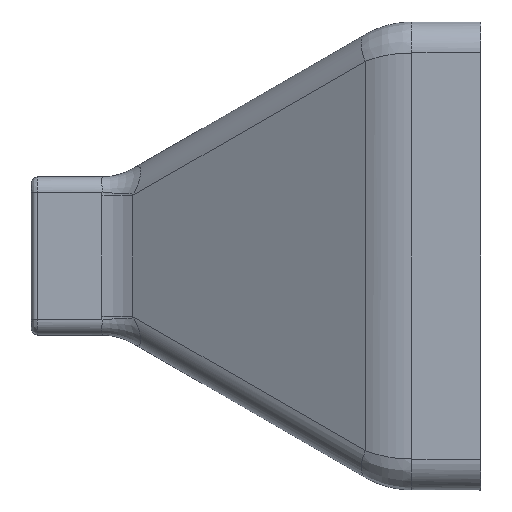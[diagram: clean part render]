
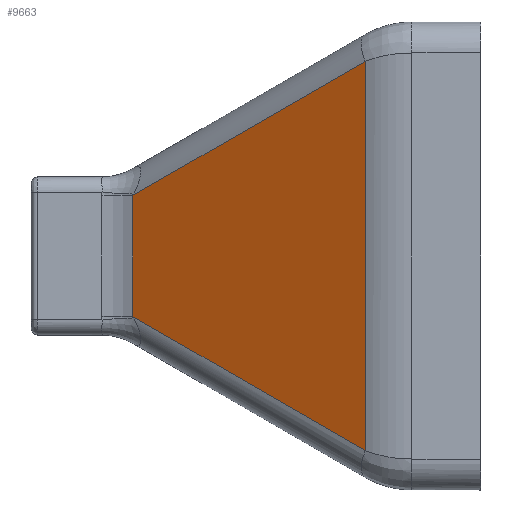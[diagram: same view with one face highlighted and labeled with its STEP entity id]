
A CAD part, left-side view. The second image highlights one B-rep face of the part: STEP entity #9663.
In plain terms, the highlighted planar face has unit normal (-0.866, 0.5, 0).
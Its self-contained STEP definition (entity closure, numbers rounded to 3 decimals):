
#50 = EDGE_CURVE ( 'NONE', #3484, #4686, #11450, .T. ) ;
#302 = CARTESIAN_POINT ( 'NONE',  ( -11.345, 112.229, -73.355 ) ) ;
#395 = VECTOR ( 'NONE', #1648, 1000. ) ;
#759 = DIRECTION ( 'NONE',  ( -0.866, 0.5, 0. ) ) ;
#959 = ORIENTED_EDGE ( 'NONE', *, *, #7785, .F. ) ;
#1394 = DIRECTION ( 'NONE',  ( 0., 0., -1. ) ) ;
#1540 = VECTOR ( 'NONE', #8851, 1000. ) ;
#1648 = DIRECTION ( 'NONE',  ( 0.447, 0.775, 0.447 ) ) ;
#1748 = PLANE ( 'NONE',  #1979 ) ;
#1979 = AXIS2_PLACEMENT_3D ( 'NONE', #6409, #759, #5472 ) ;
#2512 = EDGE_LOOP ( 'NONE', ( #12223, #2636, #959, #2721 ) ) ;
#2636 = ORIENTED_EDGE ( 'NONE', *, *, #9209, .F. ) ;
#2721 = ORIENTED_EDGE ( 'NONE', *, *, #50, .F. ) ;
#3172 = CARTESIAN_POINT ( 'NONE',  ( -54.646, 37.229, -73.836 ) ) ;
#3484 = VERTEX_POINT ( 'NONE', #11540 ) ;
#3488 = VERTEX_POINT ( 'NONE', #5976 ) ;
#3665 = DIRECTION ( 'NONE',  ( -0.447, -0.775, 0.447 ) ) ;
#4590 = CARTESIAN_POINT ( 'NONE',  ( -23.403, 91.343, -22.258 ) ) ;
#4686 = VERTEX_POINT ( 'NONE', #5758 ) ;
#4715 = VERTEX_POINT ( 'NONE', #302 ) ;
#5084 = LINE ( 'NONE', #3172, #1540 ) ;
#5472 = DIRECTION ( 'NONE',  ( 0., 0., 1. ) ) ;
#5758 = CARTESIAN_POINT ( 'NONE',  ( -54.646, 37.229, 8.985 ) ) ;
#5932 = CARTESIAN_POINT ( 'NONE',  ( -11.345, 112.229, -75.836 ) ) ;
#5976 = CARTESIAN_POINT ( 'NONE',  ( -54.646, 37.229, -116.656 ) ) ;
#6409 = CARTESIAN_POINT ( 'NONE',  ( -59.315, 29.143, -75.836 ) ) ;
#7785 = EDGE_CURVE ( 'NONE', #4686, #3488, #5084, .T. ) ;
#8851 = DIRECTION ( 'NONE',  ( 0., 0., -1. ) ) ;
#9209 = EDGE_CURVE ( 'NONE', #3488, #4715, #10236, .T. ) ;
#9475 = VECTOR ( 'NONE', #1394, 1000. ) ;
#9663 = ADVANCED_FACE ( 'NONE', ( #12138 ), #1748, .T. ) ;
#10236 = LINE ( 'NONE', #11041, #395 ) ;
#10741 = VECTOR ( 'NONE', #3665, 1000. ) ;
#10810 = EDGE_CURVE ( 'NONE', #3484, #4715, #10912, .T. ) ;
#10912 = LINE ( 'NONE', #5932, #9475 ) ;
#11041 = CARTESIAN_POINT ( 'NONE',  ( -23.403, 91.343, -85.414 ) ) ;
#11450 = LINE ( 'NONE', #4590, #10741 ) ;
#11540 = CARTESIAN_POINT ( 'NONE',  ( -11.345, 112.229, -34.316 ) ) ;
#12138 = FACE_OUTER_BOUND ( 'NONE', #2512, .T. ) ;
#12223 = ORIENTED_EDGE ( 'NONE', *, *, #10810, .T. ) ;
